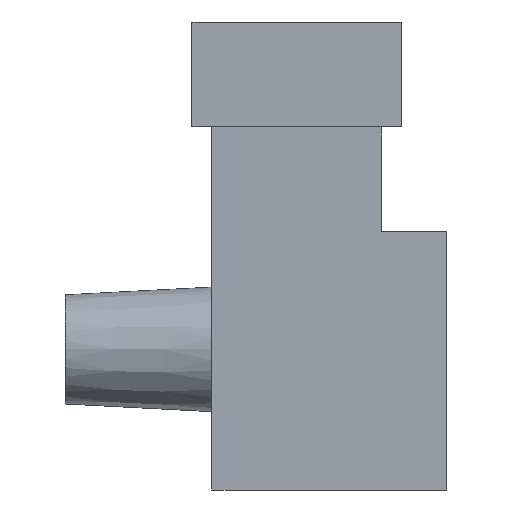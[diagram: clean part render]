
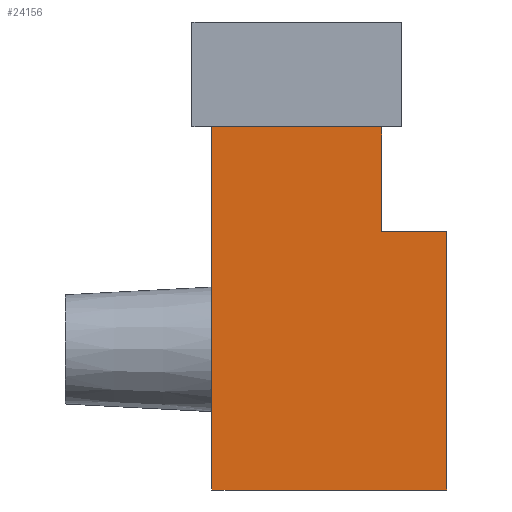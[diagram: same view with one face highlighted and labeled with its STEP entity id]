
A CAD part, left-side view. The second image highlights one B-rep face of the part: STEP entity #24156.
In plain terms, the highlighted planar face has unit normal (-1, 0, 0).
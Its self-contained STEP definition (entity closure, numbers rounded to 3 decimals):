
#12296=CARTESIAN_POINT(' ',(-3.15,8.1,-17.3));
#12297=VERTEX_POINT(' ',#12296);
#12311=CARTESIAN_POINT(' ',(-3.15,8.1,0.));
#12316=DIRECTION(' ',(0.,0.,-1.));
#12321=VECTOR(' ',#12316,1.);
#12326=LINE('',#12311,#12321);
#12331=CARTESIAN_POINT(' ',(-3.15,8.1,0.));
#12332=VERTEX_POINT(' ',#12331);
#12336=EDGE_CURVE(' ',#12332,#12297,#12326,.T.);
#13256=CARTESIAN_POINT(' ',(-3.15,0.,-17.3));
#13257=VERTEX_POINT(' ',#13256);
#13271=CARTESIAN_POINT(' ',(-3.15,8.1,-17.3));
#13276=DIRECTION(' ',(0.,-1.,0.));
#13281=VECTOR(' ',#13276,1.);
#13286=LINE('',#13271,#13281);
#13291=EDGE_CURVE(' ',#12297,#13257,#13286,.T.);
#14766=CARTESIAN_POINT(' ',(-3.15,8.1,0.));
#14771=DIRECTION(' ',(0.,-1.,0.));
#14776=VECTOR(' ',#14771,1.);
#14781=LINE('',#14766,#14776);
#14786=CARTESIAN_POINT(' ',(-3.15,0.,0.));
#14787=VERTEX_POINT(' ',#14786);
#14791=EDGE_CURVE(' ',#12332,#14787,#14781,.T.);
#23971=CARTESIAN_POINT(' ',(-3.15,9.22,-19.03));
#23976=DIRECTION(' ',(-1.,0.,0.));
#23981=DIRECTION(' ',(0.,-1.,0.));
#23986=AXIS2_PLACEMENT_3D(' ',#23971,#23976,#23981);
#23991=PLANE(' ',#23986);
#23996=ORIENTED_EDGE(' ',*,*,#14791,.F.);
#24001=ORIENTED_EDGE(' ',*,*,#12336,.T.);
#24006=ORIENTED_EDGE(' ',*,*,#13291,.T.);
#24011=CARTESIAN_POINT(' ',(-3.15,0.,-17.3));
#24016=DIRECTION(' ',(0.,-1.,0.));
#24021=VECTOR(' ',#24016,1.);
#24026=LINE('',#24011,#24021);
#24031=CARTESIAN_POINT(' ',(-3.15,-3.1,-17.3));
#24032=VERTEX_POINT(' ',#24031);
#24036=EDGE_CURVE(' ',#13257,#24032,#24026,.T.);
#24041=ORIENTED_EDGE(' ',*,*,#24036,.T.);
#24046=CARTESIAN_POINT(' ',(-3.15,-3.1,-5.));
#24051=DIRECTION(' ',(0.,0.,-1.));
#24056=VECTOR(' ',#24051,1.);
#24061=LINE('',#24046,#24056);
#24066=CARTESIAN_POINT(' ',(-3.15,-3.1,-5.));
#24067=VERTEX_POINT(' ',#24066);
#24071=EDGE_CURVE(' ',#24067,#24032,#24061,.T.);
#24076=ORIENTED_EDGE(' ',*,*,#24071,.F.);
#24081=CARTESIAN_POINT(' ',(-3.15,0.,-5.));
#24086=DIRECTION(' ',(0.,-1.,0.));
#24091=VECTOR(' ',#24086,1.);
#24096=LINE('',#24081,#24091);
#24101=CARTESIAN_POINT(' ',(-3.15,0.,-5.));
#24102=VERTEX_POINT(' ',#24101);
#24106=EDGE_CURVE(' ',#24102,#24067,#24096,.T.);
#24111=ORIENTED_EDGE(' ',*,*,#24106,.F.);
#24116=CARTESIAN_POINT(' ',(-3.15,0.,0.));
#24121=DIRECTION(' ',(0.,0.,-1.));
#24126=VECTOR(' ',#24121,1.);
#24131=LINE('',#24116,#24126);
#24136=EDGE_CURVE(' ',#14787,#24102,#24131,.T.);
#24141=ORIENTED_EDGE(' ',*,*,#24136,.F.);
#24146=EDGE_LOOP(' ',(#23996,#24001,#24006,#24041,#24076,#24111,#24141));
#24151=FACE_OUTER_BOUND(' ',#24146,.T.);
#24156=ADVANCED_FACE('',(#24151),#23991,.T.);
